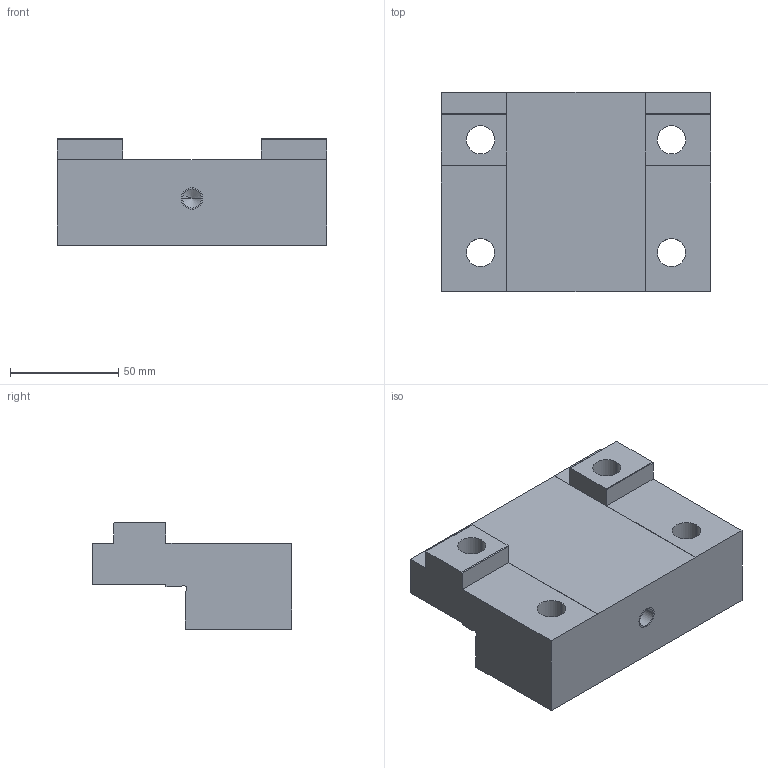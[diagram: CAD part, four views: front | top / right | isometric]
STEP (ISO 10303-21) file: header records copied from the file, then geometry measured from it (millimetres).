
FILE_DESCRIPTION((''),'2;1');
FILE_NAME('FG_VC_HIPR_C0063NP001','2026-03-16T12:50:38',('Admin'),(''),'CREO PARAMETRIC BY PTC INC, 2025010','CREO PARAMETRIC BY PTC INC, 2025010','');
FILE_SCHEMA(('CONFIG_CONTROL_DESIGN'));
Length unit declared in the file: millimetre
Products named in the file (1): FG_VC_HIPR_C0063NP001
Bounding box: 124.4 x 92 x 49 mm (x, y, z)
Volume: 321165.5 mm3; surface area: 49872.6 mm2
Topology: 1 solids, 4 shells, 76 faces, 195 edges, 127 vertices
Faces by surface type: plane 37, cylinder 33, cone 6
Entity records: 2343 total; most frequent: DIRECTION 415, CARTESIAN_POINT 393, ORIENTED_EDGE 366, EDGE_CURVE 189, AXIS2_PLACEMENT_3D 149, VERTEX_POINT 127, VECTOR 117, LINE 117
